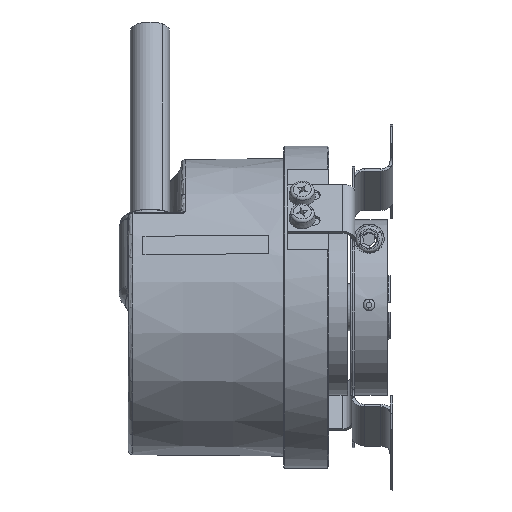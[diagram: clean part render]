
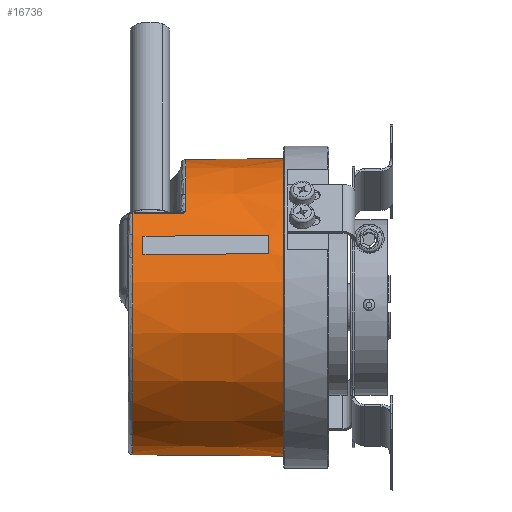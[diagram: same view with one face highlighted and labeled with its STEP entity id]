
A CAD part, front view. The second image highlights one B-rep face of the part: STEP entity #16736.
In plain terms, the highlighted conical face has half-angle 0.5 degrees and reference radius 25.4 mm.
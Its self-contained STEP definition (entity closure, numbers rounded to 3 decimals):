
#103 = CARTESIAN_POINT ( 'NONE',  ( -11.31, -19.325, 16.257 ) ) ;
#106 = CARTESIAN_POINT ( 'NONE',  ( -11.918, -19.463, 16.083 ) ) ;
#107 = CARTESIAN_POINT ( 'NONE',  ( -11.656, -19.442, 16.111 ) ) ;
#127 = CARTESIAN_POINT ( 'NONE',  ( -11.785, -19.464, 16.083 ) ) ;
#130 = CARTESIAN_POINT ( 'NONE',  ( -11.418, -19.373, 16.198 ) ) ;
#2325 = CARTESIAN_POINT ( 'NONE',  ( -11.207, -19.272, 16.321 ) ) ;
#2327 = DIRECTION ( 'NONE',  ( 0., 0., 1. ) ) ;
#2328 = DIRECTION ( 'NONE',  ( 1., 0., 0. ) ) ;
#2329 = CARTESIAN_POINT ( 'NONE',  ( -11.207, 0., 0. ) ) ;
#2330 = AXIS2_PLACEMENT_3D ( 'NONE', #2329, #2328, #2327 ) ;
#2331 = CIRCLE ( 'NONE', #2330, 25.254 ) ;
#2426 = CARTESIAN_POINT ( 'NONE',  ( -11.207, 0., 25.254 ) ) ;
#2476 = CARTESIAN_POINT ( 'NONE',  ( 5.5, 0., -25.4 ) ) ;
#2482 = DIRECTION ( 'NONE',  ( 1., 0., 0.009 ) ) ;
#2483 = VECTOR ( 'NONE', #2482, 1000. ) ;
#2484 = CARTESIAN_POINT ( 'NONE',  ( 5.5, 0., 25.4 ) ) ;
#2485 = LINE ( 'NONE', #2484, #2483 ) ;
#2495 = CARTESIAN_POINT ( 'NONE',  ( 5.5, 0., 25.4 ) ) ;
#3068 = CARTESIAN_POINT ( 'NONE',  ( -20.207, -19.395, 16.051 ) ) ;
#3069 = CARTESIAN_POINT ( 'NONE',  ( -18.111, -19.412, 16.059 ) ) ;
#3070 = CARTESIAN_POINT ( 'NONE',  ( -16.015, -19.43, 16.067 ) ) ;
#3071 = CARTESIAN_POINT ( 'NONE',  ( -13.918, -19.447, 16.075 ) ) ;
#3072 = CARTESIAN_POINT ( 'NONE',  ( -13.385, -19.451, 16.077 ) ) ;
#3073 = CARTESIAN_POINT ( 'NONE',  ( -12.852, -19.455, 16.079 ) ) ;
#3074 = CARTESIAN_POINT ( 'NONE',  ( -12.318, -19.46, 16.081 ) ) ;
#3075 = CARTESIAN_POINT ( 'NONE',  ( -12.185, -19.461, 16.082 ) ) ;
#3076 = CARTESIAN_POINT ( 'NONE',  ( -12.052, -19.462, 16.082 ) ) ;
#3077 = CARTESIAN_POINT ( 'NONE',  ( -11.918, -19.463, 16.083 ) ) ;
#3086 = B_SPLINE_CURVE_WITH_KNOTS ( 'NONE', 3,
 ( #3077, #3076, #3075, #3074, #3073, #3072, #3071, #3070, #3069, #3068 ),
 .UNSPECIFIED., .F., .F.,
 ( 4, 3, 3, 4 ),
 ( 0., 0., 0.002, 0.008 ),
 .UNSPECIFIED. ) ;
#3523 = CARTESIAN_POINT ( 'NONE',  ( -11.918, -19.463, 16.083 ) ) ;
#3531 = B_SPLINE_CURVE_WITH_KNOTS ( 'NONE', 3,
 ( #3570, #103, #130, #107, #127, #106 ),
 .UNSPECIFIED., .F., .F.,
 ( 4, 2, 4 ),
 ( 0., 0., 0.001 ),
 .UNSPECIFIED. ) ;
#3570 = CARTESIAN_POINT ( 'NONE',  ( -11.207, -19.272, 16.321 ) ) ;
#4169 = CARTESIAN_POINT ( 'NONE',  ( -18.5, -22.055, 12.172 ) ) ;
#4170 = CARTESIAN_POINT ( 'NONE',  ( -17.603, -22.061, 12.176 ) ) ;
#4171 = CARTESIAN_POINT ( 'NONE',  ( -16.707, -22.068, 12.179 ) ) ;
#4172 = CARTESIAN_POINT ( 'NONE',  ( -15.81, -22.075, 12.183 ) ) ;
#4173 = CARTESIAN_POINT ( 'NONE',  ( -9.54, -22.124, 12.208 ) ) ;
#4174 = CARTESIAN_POINT ( 'NONE',  ( -3.27, -22.173, 12.232 ) ) ;
#4175 = CARTESIAN_POINT ( 'NONE',  ( 3., -22.222, 12.257 ) ) ;
#4181 = B_SPLINE_CURVE_WITH_KNOTS ( 'NONE', 3,
 ( #4175, #4174, #4173, #4172, #4171, #4170, #4169 ),
 .UNSPECIFIED., .F., .F.,
 ( 4, 3, 4 ),
 ( 0.003, 0.022, 0.025 ),
 .UNSPECIFIED. ) ;
#4292 = DIRECTION ( 'NONE',  ( 0., 0., -1. ) ) ;
#4293 = DIRECTION ( 'NONE',  ( -1., 0., 0. ) ) ;
#4294 = CARTESIAN_POINT ( 'NONE',  ( -18.5, 0., 0. ) ) ;
#4295 = AXIS2_PLACEMENT_3D ( 'NONE', #4294, #4293, #4292 ) ;
#4296 = CIRCLE ( 'NONE', #4295, 25.191 ) ;
#4297 = CARTESIAN_POINT ( 'NONE',  ( -18.5, -22.055, 12.172 ) ) ;
#4298 = CARTESIAN_POINT ( 'NONE',  ( -18.5, -23.501, 9.071 ) ) ;
#5462 = CARTESIAN_POINT ( 'NONE',  ( 3., -22.222, 12.257 ) ) ;
#5467 = CARTESIAN_POINT ( 'NONE',  ( 3., -23.674, 9.144 ) ) ;
#5582 = CARTESIAN_POINT ( 'NONE',  ( 3., -23.674, 9.144 ) ) ;
#5583 = CARTESIAN_POINT ( 'NONE',  ( -3.271, -23.623, 9.123 ) ) ;
#5584 = CARTESIAN_POINT ( 'NONE',  ( -9.541, -23.573, 9.101 ) ) ;
#5585 = CARTESIAN_POINT ( 'NONE',  ( -15.812, -23.522, 9.08 ) ) ;
#5586 = CARTESIAN_POINT ( 'NONE',  ( -16.708, -23.515, 9.077 ) ) ;
#5587 = CARTESIAN_POINT ( 'NONE',  ( -17.604, -23.508, 9.074 ) ) ;
#5588 = CARTESIAN_POINT ( 'NONE',  ( -18.5, -23.501, 9.071 ) ) ;
#5592 = B_SPLINE_CURVE_WITH_KNOTS ( 'NONE', 3,
 ( #5588, #5587, #5586, #5585, #5584, #5583, #5582 ),
 .UNSPECIFIED., .F., .F.,
 ( 4, 3, 4 ),
 ( 0.019, 0.022, 0.041 ),
 .UNSPECIFIED. ) ;
#5621 = DIRECTION ( 'NONE',  ( 0., 0., -1. ) ) ;
#5622 = DIRECTION ( 'NONE',  ( 1., 0., 0. ) ) ;
#5623 = CARTESIAN_POINT ( 'NONE',  ( 5.5, 0., 0. ) ) ;
#5624 = AXIS2_PLACEMENT_3D ( 'NONE', #5623, #5622, #5621 ) ;
#5627 = CONICAL_SURFACE ( 'NONE', #5624, 25.4, 0.009 ) ;
#5642 = FACE_BOUND ( 'NONE', #16728, .T. ) ;
#5647 = FACE_OUTER_BOUND ( 'NONE', #16463, .T. ) ;
#5828 = DIRECTION ( 'NONE',  ( 0., 0., -1. ) ) ;
#5829 = DIRECTION ( 'NONE',  ( 1., 0., 0. ) ) ;
#5830 = CARTESIAN_POINT ( 'NONE',  ( 5.5, 0., 0. ) ) ;
#5831 = AXIS2_PLACEMENT_3D ( 'NONE', #5830, #5829, #5828 ) ;
#5836 = CIRCLE ( 'NONE', #5831, 25.4 ) ;
#5863 = DIRECTION ( 'NONE',  ( 0., 0., -1. ) ) ;
#5864 = DIRECTION ( 'NONE',  ( -1., 0., 0. ) ) ;
#5865 = CARTESIAN_POINT ( 'NONE',  ( 3., 0., 0. ) ) ;
#5866 = AXIS2_PLACEMENT_3D ( 'NONE', #5865, #5864, #5863 ) ;
#5867 = CIRCLE ( 'NONE', #5866, 25.378 ) ;
#14089 = DIRECTION ( 'NONE',  ( 1., 0., -0.009 ) ) ;
#14090 = VECTOR ( 'NONE', #14089, 1000. ) ;
#14091 = CARTESIAN_POINT ( 'NONE',  ( 5.5, 0., -25.4 ) ) ;
#14092 = LINE ( 'NONE', #14091, #14090 ) ;
#14094 = CARTESIAN_POINT ( 'NONE',  ( -20.207, 0., -25.176 ) ) ;
#14888 = CARTESIAN_POINT ( 'NONE',  ( -20.207, -19.395, 16.051 ) ) ;
#14895 = DIRECTION ( 'NONE',  ( 0., 0., -1. ) ) ;
#14896 = DIRECTION ( 'NONE',  ( 1., 0., 0. ) ) ;
#14897 = AXIS2_PLACEMENT_3D ( 'NONE', #14940, #14896, #14895 ) ;
#14898 = CIRCLE ( 'NONE', #14897, 25.176 ) ;
#14940 = CARTESIAN_POINT ( 'NONE',  ( -20.207, 0., 0. ) ) ;
#16010 = VERTEX_POINT ( 'NONE', #14094 ) ;
#16013 = EDGE_CURVE ( 'NONE', #16010, #16193, #14092, .T. ) ;
#16125 = EDGE_CURVE ( 'NONE', #16131, #16010, #14898, .T. ) ;
#16131 = VERTEX_POINT ( 'NONE', #14888 ) ;
#16157 = EDGE_CURVE ( 'NONE', #16184, #16160, #2331, .T. ) ;
#16160 = VERTEX_POINT ( 'NONE', #2325 ) ;
#16184 = VERTEX_POINT ( 'NONE', #2426 ) ;
#16187 = VERTEX_POINT ( 'NONE', #2495 ) ;
#16190 = EDGE_CURVE ( 'NONE', #16184, #16187, #2485, .T. ) ;
#16193 = VERTEX_POINT ( 'NONE', #2476 ) ;
#16252 = EDGE_CURVE ( 'NONE', #16317, #16131, #3086, .T. ) ;
#16317 = VERTEX_POINT ( 'NONE', #3523 ) ;
#16327 = EDGE_CURVE ( 'NONE', #16160, #16317, #3531, .T. ) ;
#16460 = EDGE_CURVE ( 'NONE', #16673, #16475, #4181, .T. ) ;
#16463 = EDGE_LOOP ( 'NONE', ( #16684, #16676, #16677, #16674, #16675, #16727, #16745 ) ) ;
#16474 = VERTEX_POINT ( 'NONE', #4298 ) ;
#16475 = VERTEX_POINT ( 'NONE', #4297 ) ;
#16477 = EDGE_CURVE ( 'NONE', #16474, #16475, #4296, .T. ) ;
#16672 = VERTEX_POINT ( 'NONE', #5467 ) ;
#16673 = VERTEX_POINT ( 'NONE', #5462 ) ;
#16674 = ORIENTED_EDGE ( 'NONE', *, *, #16252, .T. ) ;
#16675 = ORIENTED_EDGE ( 'NONE', *, *, #16125, .T. ) ;
#16676 = ORIENTED_EDGE ( 'NONE', *, *, #16157, .T. ) ;
#16677 = ORIENTED_EDGE ( 'NONE', *, *, #16327, .T. ) ;
#16684 = ORIENTED_EDGE ( 'NONE', *, *, #16190, .F. ) ;
#16722 = EDGE_CURVE ( 'NONE', #16474, #16672, #5592, .T. ) ;
#16727 = ORIENTED_EDGE ( 'NONE', *, *, #16013, .T. ) ;
#16728 = EDGE_LOOP ( 'NONE', ( #16730, #16731, #16793, #16794 ) ) ;
#16730 = ORIENTED_EDGE ( 'NONE', *, *, #16722, .F. ) ;
#16731 = ORIENTED_EDGE ( 'NONE', *, *, #16477, .T. ) ;
#16736 = ADVANCED_FACE ( 'NONE', ( #5647, #5642 ), #5627, .T. ) ;
#16745 = ORIENTED_EDGE ( 'NONE', *, *, #16788, .F. ) ;
#16788 = EDGE_CURVE ( 'NONE', #16187, #16193, #5836, .T. ) ;
#16793 = ORIENTED_EDGE ( 'NONE', *, *, #16460, .F. ) ;
#16794 = ORIENTED_EDGE ( 'NONE', *, *, #16795, .F. ) ;
#16795 = EDGE_CURVE ( 'NONE', #16672, #16673, #5867, .T. ) ;
